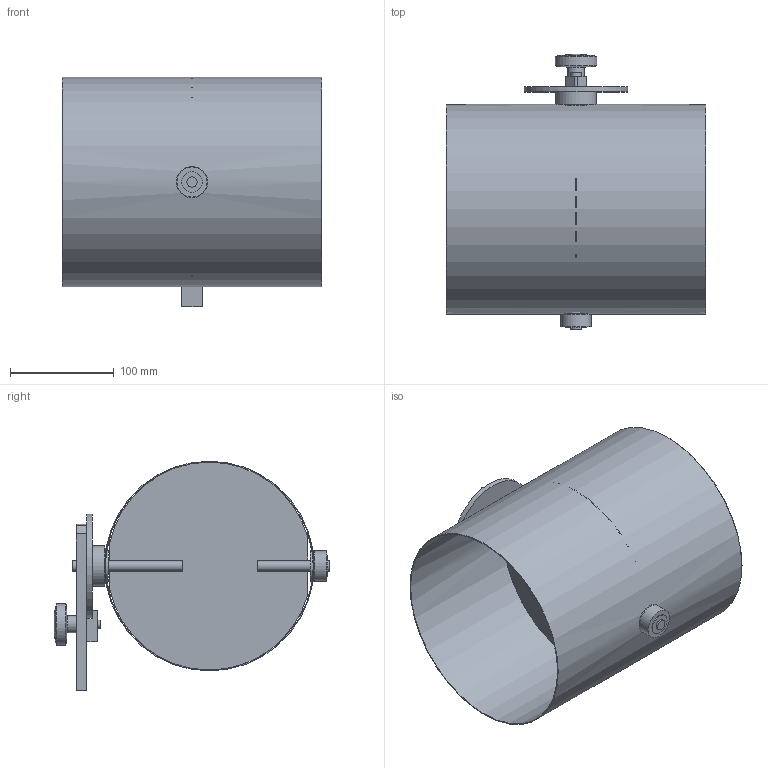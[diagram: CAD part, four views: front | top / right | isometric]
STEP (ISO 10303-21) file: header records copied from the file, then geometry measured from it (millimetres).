
FILE_DESCRIPTION(/* description */ (''),/* implementation_level */ '2;1');
FILE_NAME(/* name */ 'METU_Drosselklappe_glatt_verzinkt_AA101-80B__200_L250_handbetaetigt.stp',/* time_stamp */ '2022-04-22T14:39:04+02:00',/* author */ (''),/* organization */ (''),/* preprocessor_version */ 'ST-DEVELOPER v11',/* originating_system */ 'SIEMENS UGS NX 6.0',/* authorisation */ '');
FILE_SCHEMA (('CONFIG_CONTROL_DESIGN'));
Length unit declared in the file: millimetre
Products named in the file (1): d.ga332Aq93t
Bounding box: 250 x 265.31 x 220.8 mm (x, y, z)
Volume: 286290.6 mm3; surface area: 430075.2 mm2
Topology: 12 solids, 12 shells, 75 faces, 149 edges, 103 vertices
Faces by surface type: plane 40, cylinder 33, sphere 2
Full cylindrical faces by diameter (mm): 4.4 x5, 6.8 x1, 8 x1, 9 x1, 10 x5, 16.5 x1, 19 x3, 19.85 x2, 20 x2, 29 x1, 30 x2, 35 x1, 39 x1, 40 x1, 100 x1, 200 x1, 201.6 x1
Entity records: 1912 total; most frequent: CARTESIAN_POINT 344, DIRECTION 318, ORIENTED_EDGE 216, EDGE_LOOP 142, AXIS2_PLACEMENT_3D 138, FACE_BOUND 120, EDGE_CURVE 108, VERTEX_POINT 92
